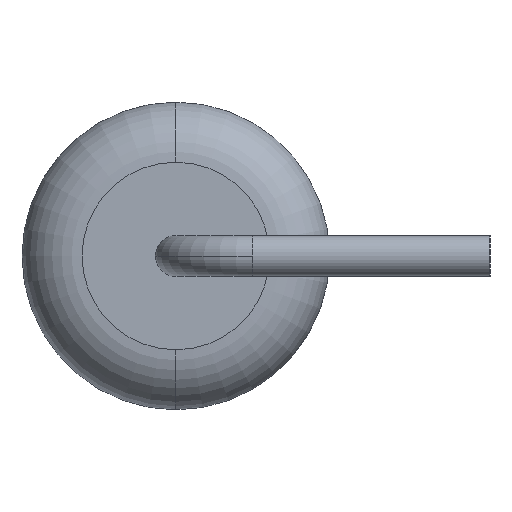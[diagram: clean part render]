
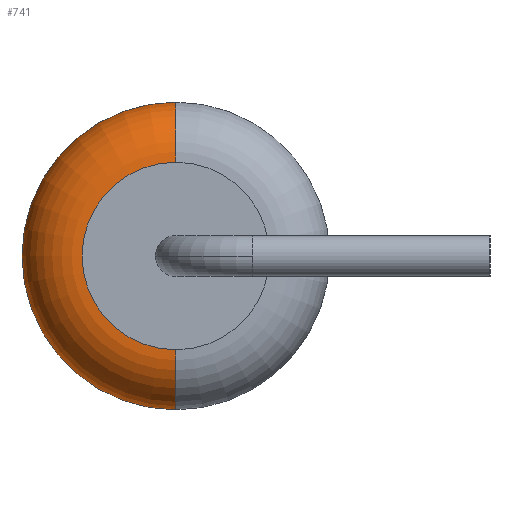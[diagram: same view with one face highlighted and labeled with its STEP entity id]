
A CAD part, left-side view. The second image highlights one B-rep face of the part: STEP entity #741.
In plain terms, the highlighted toroidal (fillet/blend) face has major radius 1.17 mm and minor radius 0.75 mm.
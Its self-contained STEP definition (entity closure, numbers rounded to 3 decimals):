
#698 = CARTESIAN_POINT ( 'NONE',  ( -3.275, 1.92, 1.92 ) ) ;
#699 = VERTEX_POINT ( 'NONE', #698 ) ;
#700 = CARTESIAN_POINT ( 'NONE',  ( -3.275, 1.92, -1.92 ) ) ;
#701 = VERTEX_POINT ( 'NONE', #700 ) ;
#702 = CARTESIAN_POINT ( 'NONE',  ( -3.275, 1.92, 0. ) ) ;
#703 = DIRECTION ( 'NONE',  ( -1., 0., 0. ) ) ;
#704 = DIRECTION ( 'NONE',  ( 0., 0., 1. ) ) ;
#705 = AXIS2_PLACEMENT_3D ( 'NONE', #702, #703, #704 ) ;
#706 = CIRCLE ( 'NONE', #705, 1.92) ;
#707 = EDGE_CURVE ( 'NONE', #699, #701, #706, .T. ) ;
#708 = ORIENTED_EDGE ( 'NONE', *, *, #707, .T. ) ;
#709 = CARTESIAN_POINT ( 'NONE',  ( -4.025, 1.92, -1.17 ) ) ;
#710 = VERTEX_POINT ( 'NONE', #709 ) ;
#711 = CARTESIAN_POINT ( 'NONE',  ( -3.275, 1.92, -1.17 ) ) ;
#712 = DIRECTION ( 'NONE',  ( 0., 1., 0. ) ) ;
#713 = DIRECTION ( 'NONE',  ( 0., 0., 1. ) ) ;
#714 = AXIS2_PLACEMENT_3D ( 'NONE', #711, #712, #713 ) ;
#715 = CIRCLE ( 'NONE', #714, 0.75) ;
#716 = EDGE_CURVE ( 'NONE', #701, #710, #715, .T. ) ;
#717 = ORIENTED_EDGE ( 'NONE', *, *, #716, .T. ) ;
#718 = CARTESIAN_POINT ( 'NONE',  ( -4.025, 1.92, 1.17 ) ) ;
#719 = VERTEX_POINT ( 'NONE', #718 ) ;
#720 = CARTESIAN_POINT ( 'NONE',  ( -4.025, 1.92, 0. ) ) ;
#721 = DIRECTION ( 'NONE',  ( -1., 0., 0. ) ) ;
#722 = DIRECTION ( 'NONE',  ( 0., 0., 1. ) ) ;
#723 = AXIS2_PLACEMENT_3D ( 'NONE', #720, #721, #722 ) ;
#724 = CIRCLE ( 'NONE', #723, 1.17) ;
#725 = EDGE_CURVE ( 'NONE', #719, #710, #724, .T. ) ;
#726 = ORIENTED_EDGE ( 'NONE', *, *, #725, .F. ) ;
#727 = CARTESIAN_POINT ( 'NONE',  ( -3.275, 1.92, 1.17 ) ) ;
#728 = DIRECTION ( 'NONE',  ( 0., -1., 0. ) ) ;
#729 = DIRECTION ( 'NONE',  ( 0., 0., -1. ) ) ;
#730 = AXIS2_PLACEMENT_3D ( 'NONE', #727, #728, #729 ) ;
#731 = CIRCLE ( 'NONE', #730, 0.75) ;
#732 = EDGE_CURVE ( 'NONE', #699, #719, #731, .T. ) ;
#733 = ORIENTED_EDGE ( 'NONE', *, *, #732, .F. ) ;
#734 = EDGE_LOOP ( 'NONE', ( #708, #717, #726, #733 ) ) ;
#735 = FACE_OUTER_BOUND ( 'NONE', #734, .T. ) ;
#736 = CARTESIAN_POINT ( 'NONE',  ( -3.275, 1.92, 0. ) ) ;
#737 = DIRECTION ( 'NONE',  ( -1., 0., 0. ) ) ;
#738 = DIRECTION ( 'NONE',  ( 0., 0., 1. ) ) ;
#739 = AXIS2_PLACEMENT_3D ( 'NONE', #736, #737, #738 ) ;
#740 = TOROIDAL_SURFACE ( 'NONE', #739, 1.17, 0.75 ) ;
#741 = ADVANCED_FACE ( 'NONE', ( #735 ), #740, .T. ) ;
